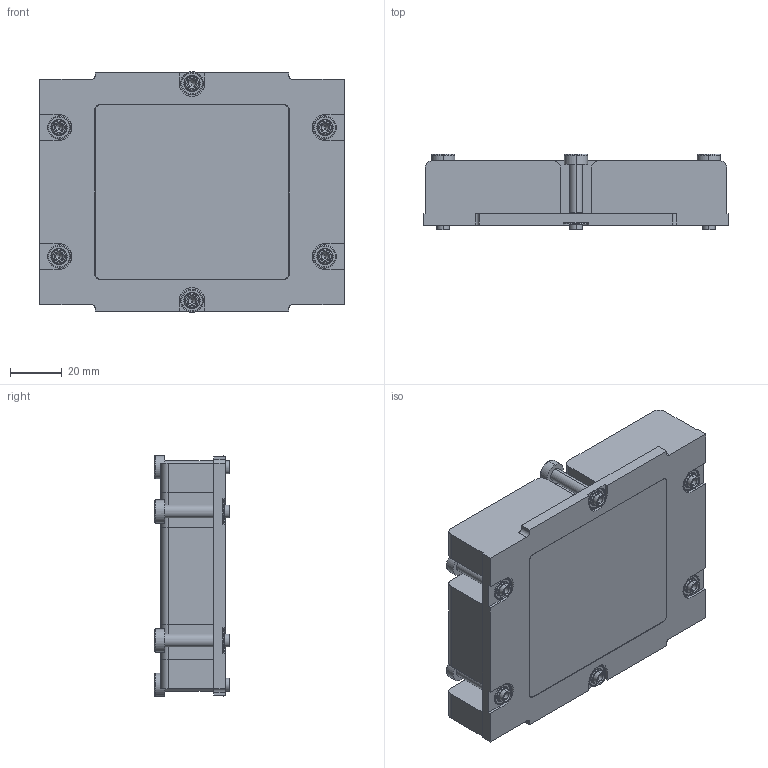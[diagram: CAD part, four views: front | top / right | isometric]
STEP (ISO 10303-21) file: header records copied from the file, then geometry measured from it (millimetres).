
FILE_DESCRIPTION((''),'2;1');
FILE_NAME('RGE110-P_ME_ASM','2023-08-21T',('User'),(''),'PRO/ENGINEER BY PARAMETRIC TECHNOLOGY CORPORATION, 2017170','PRO/ENGINEER BY PARAMETRIC TECHNOLOGY CORPORATION, 2017170','');
FILE_SCHEMA(('CONFIG_CONTROL_DESIGN'));
Products named in the file (8): MANIFOLD_SOLID_BREP_46348; MANIFOLD_SOLID_BREP_48037; MANIFOLD_SOLID_BREP_49726; MANIFOLD_SOLID_BREP_51415; MANIFOLD_SOLID_BREP_53104; MANIFOLD_SOLID_BREP_54793; MANIFOLD_SOLID_BREP_56482; RGE110-P_ME_ASM
Assembly tree (7 placements, depth 2):
  RGE110-P_ME_ASM
    MANIFOLD_SOLID_BREP_46348
    MANIFOLD_SOLID_BREP_48037
    MANIFOLD_SOLID_BREP_49726
    MANIFOLD_SOLID_BREP_51415
    MANIFOLD_SOLID_BREP_53104
    MANIFOLD_SOLID_BREP_54793
    MANIFOLD_SOLID_BREP_56482
Bounding box: 118 x 29.18 x 93.2 mm (x, y, z)
Volume: 238418 mm3; surface area: 53867.9 mm2
Topology: 7 solids, 7 shells, 1369 faces, 3846 edges, 2456 vertices
Faces by surface type: cylinder 459, bspline 307, plane 229, cone 208, torus 150, sphere 16
Entity records: 57401 total; most frequent: CARTESIAN_POINT 24420, ORIENTED_EDGE 7612, DIRECTION 6003, EDGE_CURVE 3806, AXIS2_PLACEMENT_3D 2459, VERTEX_POINT 2456, EDGE_LOOP 1424, CIRCLE 1382
